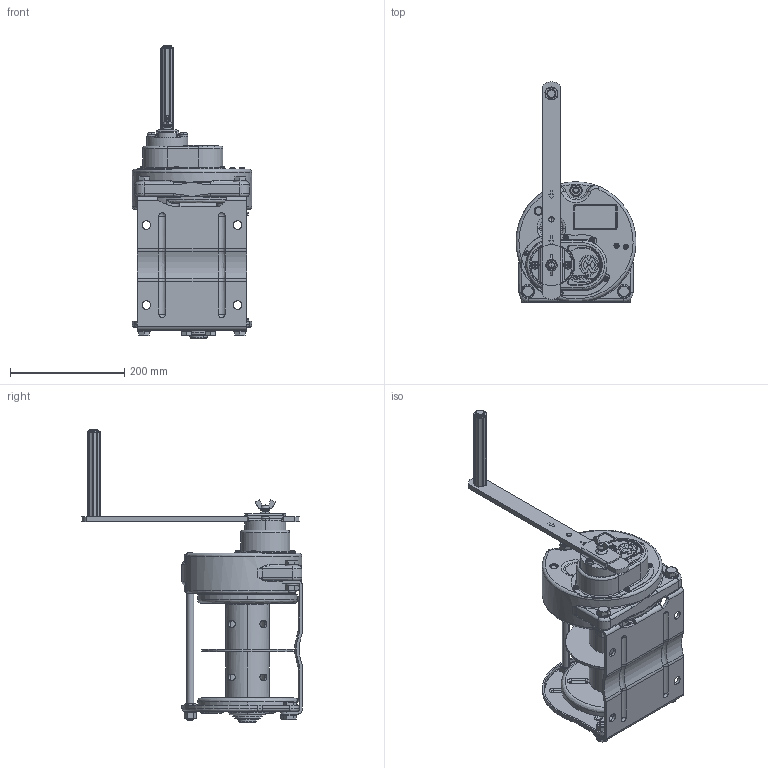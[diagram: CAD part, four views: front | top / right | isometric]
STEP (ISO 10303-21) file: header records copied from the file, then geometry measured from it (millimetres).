
FILE_DESCRIPTION( (''), '2;1');
FILE_NAME ('GM-10-NWD-SI.stp','2023-12-28T16:37:47',(''),(''),'spGate 19.8.2 (****-****-****-****)','','');
FILE_SCHEMA (('AUTOMOTIVE_DESIGN'));
Length unit declared in the file: millimetre
Products named in the file (3): Assembly; GM-10-NWD-SI-prt0; GM-10-NWD-SI-prt1
Assembly tree (2 placements, depth 2):
  Assembly
    GM-10-NWD-SI-prt0
    GM-10-NWD-SI-prt1
Bounding box: 209.96 x 385.43 x 513.1 mm (x, y, z)
Volume: 4025414.4 mm3; surface area: 735889.3 mm2
Topology: 2 solids, 2 shells, 2806 faces, 7211 edges, 4511 vertices
Faces by surface type: plane 1320, cylinder 879, bspline 529, sphere 78
Entity records: 154196 total; most frequent: CARTESIAN_POINT 30392, ORIENTED_EDGE 14326, DIRECTION 13721, COLOUR_RGB 9971, PRESENTATION_STYLE_ASSIGNMENT 9971, STYLED_ITEM 9971, EDGE_CURVE 7163, DRAUGHTING_PRE_DEFINED_CURVE_FONT 7163
